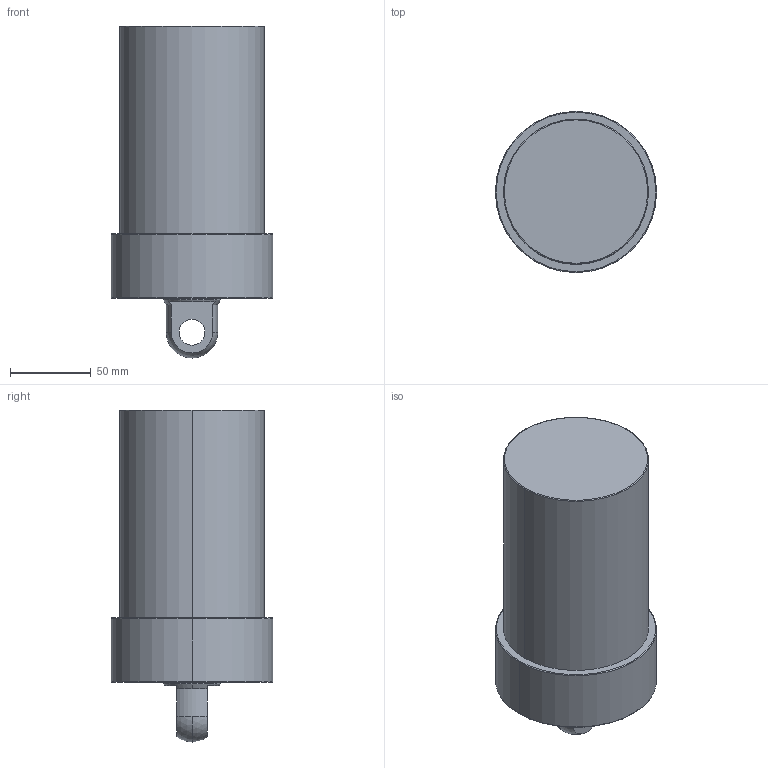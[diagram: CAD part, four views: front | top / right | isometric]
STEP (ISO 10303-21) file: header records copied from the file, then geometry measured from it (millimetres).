
FILE_DESCRIPTION (( 'STEP AP203' ), '1' );
FILE_NAME ('CLLU-090GP-085.STEP', '2020-01-15T01:43:48', ( '' ), ( '' ), 'SwSTEP 2.0', 'SolidWorks 2015', '' );
FILE_SCHEMA (( 'CONFIG_CONTROL_DESIGN' ));
Length unit declared in the file: millimetre
Products named in the file (1): CLLU-090GP-085
Bounding box: 100 x 100 x 206 mm (x, y, z)
Volume: 1143824.7 mm3; surface area: 70929.2 mm2
Topology: 1 solids, 1 shells, 58 faces, 131 edges, 75 vertices
Faces by surface type: cylinder 23, cone 18, plane 9, torus 6, sphere 2
Entity records: 1658 total; most frequent: DIRECTION 311, CARTESIAN_POINT 269, ORIENTED_EDGE 246, AXIS2_PLACEMENT_3D 133, EDGE_CURVE 123, VERTEX_POINT 75, CIRCLE 74, EDGE_LOOP 68
